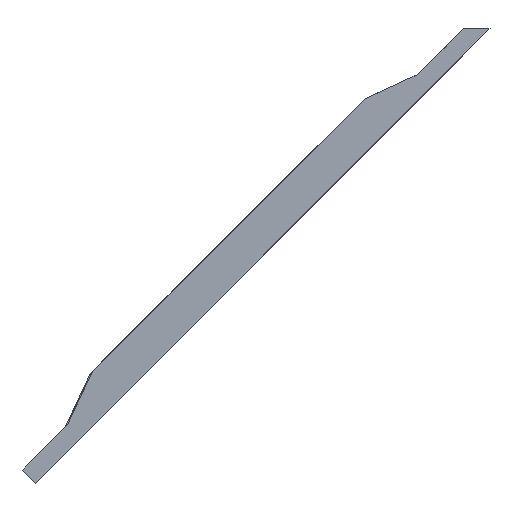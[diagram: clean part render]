
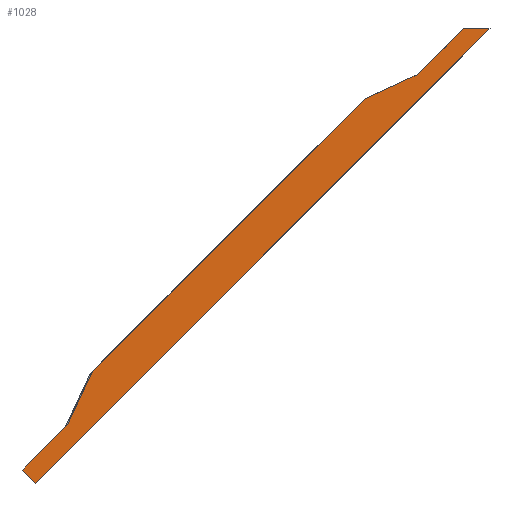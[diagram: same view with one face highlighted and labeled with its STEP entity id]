
A CAD part, front view. The second image highlights one B-rep face of the part: STEP entity #1028.
In plain terms, the highlighted planar face has unit normal (0, -1, 0).
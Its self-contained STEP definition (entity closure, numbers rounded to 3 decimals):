
#44=FACE_OUTER_BOUND('',#91,.T.);
#91=EDGE_LOOP('',(#802,#803,#804,#805,#806,#807,#808,#809,#810,#811));
#153=LINE('',#1422,#301);
#218=LINE('',#1548,#366);
#227=LINE('',#1566,#375);
#231=LINE('',#1572,#379);
#233=LINE('',#1575,#381);
#234=LINE('',#1577,#382);
#235=LINE('',#1579,#383);
#236=LINE('',#1580,#384);
#237=LINE('',#1582,#385);
#238=LINE('',#1583,#386);
#301=VECTOR('',#1158,10.);
#366=VECTOR('',#1247,10.);
#375=VECTOR('',#1262,10.);
#379=VECTOR('',#1268,10.);
#381=VECTOR('',#1272,10.);
#382=VECTOR('',#1273,10.);
#383=VECTOR('',#1274,10.);
#384=VECTOR('',#1275,10.);
#385=VECTOR('',#1276,10.);
#386=VECTOR('',#1277,10.);
#444=VERTEX_POINT('',#1419);
#445=VERTEX_POINT('',#1421);
#493=VERTEX_POINT('',#1545);
#494=VERTEX_POINT('',#1547);
#499=VERTEX_POINT('',#1564);
#500=VERTEX_POINT('',#1565);
#501=VERTEX_POINT('',#1571);
#502=VERTEX_POINT('',#1576);
#503=VERTEX_POINT('',#1578);
#504=VERTEX_POINT('',#1581);
#545=EDGE_CURVE('',#445,#444,#153,.T.);
#610=EDGE_CURVE('',#494,#493,#218,.T.);
#619=EDGE_CURVE('',#499,#500,#227,.T.);
#623=EDGE_CURVE('',#500,#501,#231,.T.);
#625=EDGE_CURVE('',#494,#499,#233,.T.);
#626=EDGE_CURVE('',#493,#502,#234,.T.);
#627=EDGE_CURVE('',#502,#503,#235,.T.);
#628=EDGE_CURVE('',#503,#445,#236,.T.);
#629=EDGE_CURVE('',#444,#504,#237,.T.);
#630=EDGE_CURVE('',#501,#504,#238,.T.);
#802=ORIENTED_EDGE('',*,*,#619,.F.);
#803=ORIENTED_EDGE('',*,*,#625,.F.);
#804=ORIENTED_EDGE('',*,*,#610,.T.);
#805=ORIENTED_EDGE('',*,*,#626,.T.);
#806=ORIENTED_EDGE('',*,*,#627,.T.);
#807=ORIENTED_EDGE('',*,*,#628,.T.);
#808=ORIENTED_EDGE('',*,*,#545,.T.);
#809=ORIENTED_EDGE('',*,*,#629,.T.);
#810=ORIENTED_EDGE('',*,*,#630,.F.);
#811=ORIENTED_EDGE('',*,*,#623,.F.);
#981=PLANE('',#1089);
#1028=ADVANCED_FACE('',(#44),#981,.T.);
#1089=AXIS2_PLACEMENT_3D('',#1574,#1270,#1271);
#1158=DIRECTION('',(-0.707,0.,-0.707));
#1247=DIRECTION('',(-0.707,0.,-0.707));
#1262=DIRECTION('',(0.423,0.,0.906));
#1268=DIRECTION('',(0.707,0.,0.707));
#1270=DIRECTION('center_axis',(0.,-1.,0.));
#1271=DIRECTION('ref_axis',(0.,0.,-1.));
#1272=DIRECTION('',(-0.707,0.,0.707));
#1273=DIRECTION('',(0.707,0.,-0.707));
#1274=DIRECTION('',(0.707,0.,0.707));
#1275=DIRECTION('',(-1.,0.,0.));
#1276=DIRECTION('',(-0.707,0.,0.707));
#1277=DIRECTION('',(0.906,0.,0.423));
#1419=CARTESIAN_POINT('',(160.501,-41.8,-119.549));
#1421=CARTESIAN_POINT('',(167.572,-41.8,-112.478));
#1422=CARTESIAN_POINT('',(99.15,-41.8,-180.9));
#1545=CARTESIAN_POINT('',(101.15,-41.8,-178.9));
#1547=CARTESIAN_POINT('',(108.221,-41.8,-171.829));
#1548=CARTESIAN_POINT('',(99.15,-41.8,-180.9));
#1564=CARTESIAN_POINT('',(108.159,-41.8,-171.767));
#1565=CARTESIAN_POINT('',(111.759,-41.8,-164.048));
#1566=CARTESIAN_POINT('',(116.372,-41.8,-154.161));
#1571=CARTESIAN_POINT('',(152.723,-41.8,-123.085));
#1572=CARTESIAN_POINT('',(106.033,-41.8,-169.775));
#1574=CARTESIAN_POINT('Origin',(136.361,-41.8,-146.689));
#1575=CARTESIAN_POINT('',(108.221,-41.8,-171.829));
#1576=CARTESIAN_POINT('',(103.15,-41.8,-180.9));
#1577=CARTESIAN_POINT('',(103.15,-41.8,-180.9));
#1578=CARTESIAN_POINT('',(171.572,-41.8,-112.478));
#1579=CARTESIAN_POINT('',(99.15,-41.8,-184.9));
#1580=CARTESIAN_POINT('',(183.4,-41.8,-112.478));
#1581=CARTESIAN_POINT('',(160.439,-41.8,-119.487));
#1582=CARTESIAN_POINT('',(160.501,-41.8,-119.549));
#1583=CARTESIAN_POINT('',(143.411,-41.8,-127.427));
